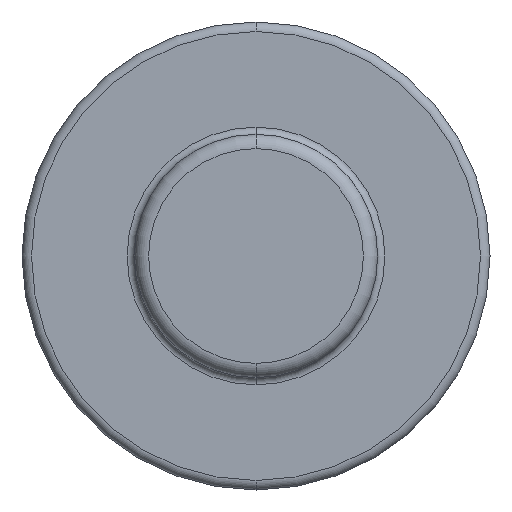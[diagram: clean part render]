
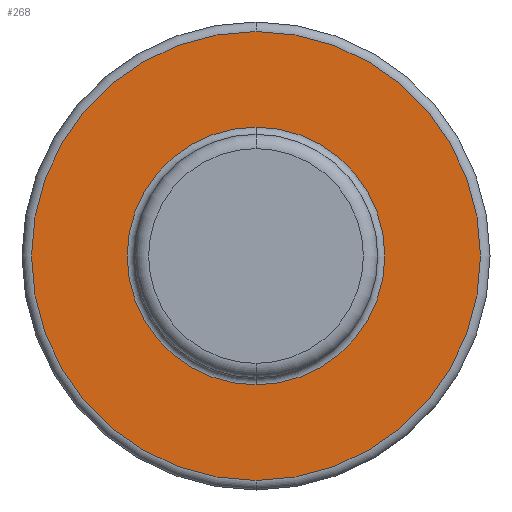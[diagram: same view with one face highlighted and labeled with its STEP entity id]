
A CAD part, front view. The second image highlights one B-rep face of the part: STEP entity #268.
In plain terms, the highlighted planar face has unit normal (0, -1, 0).
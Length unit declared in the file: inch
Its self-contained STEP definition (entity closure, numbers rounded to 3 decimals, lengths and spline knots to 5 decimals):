
#2 = CIRCLE ( 'NONE', #534, 0.27091 ) ;
#13 = EDGE_CURVE ( 'NONE', #476, #530, #67, .T. ) ;
#36 = CARTESIAN_POINT ( 'NONE',  ( 0., 0., -0.47213 ) ) ;
#43 = CIRCLE ( 'NONE', #486, 0.27091 ) ;
#67 = CIRCLE ( 'NONE', #116, 0.47213 ) ;
#71 = ORIENTED_EDGE ( 'NONE', *, *, #435, .T. ) ;
#86 = CARTESIAN_POINT ( 'NONE',  ( 0., 0., 0. ) ) ;
#116 = AXIS2_PLACEMENT_3D ( 'NONE', #837, #762, #587 ) ;
#137 = DIRECTION ( 'NONE',  ( 0., 0., 1. ) ) ;
#153 = DIRECTION ( 'NONE',  ( 0., 0., 1. ) ) ;
#169 = FACE_BOUND ( 'NONE', #684, .T. ) ;
#179 = ORIENTED_EDGE ( 'NONE', *, *, #13, .T. ) ;
#231 = CARTESIAN_POINT ( 'NONE',  ( 0., 0., 0.47213 ) ) ;
#268 = ADVANCED_FACE ( 'NONE', ( #169, #310 ), #612, .F. ) ;
#274 = EDGE_CURVE ( 'NONE', #530, #476, #804, .T. ) ;
#310 = FACE_OUTER_BOUND ( 'NONE', #841, .T. ) ;
#332 = AXIS2_PLACEMENT_3D ( 'NONE', #667, #784, #473 ) ;
#353 = DIRECTION ( 'NONE',  ( 0., 1., 0. ) ) ;
#388 = EDGE_CURVE ( 'NONE', #679, #810, #2, .T. ) ;
#406 = DIRECTION ( 'NONE',  ( 0., 1., 0. ) ) ;
#415 = DIRECTION ( 'NONE',  ( 0., 1., 0. ) ) ;
#435 = EDGE_CURVE ( 'NONE', #810, #679, #43, .T. ) ;
#473 = DIRECTION ( 'NONE',  ( 0., 0., 1. ) ) ;
#476 = VERTEX_POINT ( 'NONE', #36 ) ;
#486 = AXIS2_PLACEMENT_3D ( 'NONE', #576, #353, #819 ) ;
#530 = VERTEX_POINT ( 'NONE', #231 ) ;
#534 = AXIS2_PLACEMENT_3D ( 'NONE', #86, #415, #153 ) ;
#576 = CARTESIAN_POINT ( 'NONE',  ( 0., 0., 0. ) ) ;
#587 = DIRECTION ( 'NONE',  ( 0., 0., 1. ) ) ;
#596 = CARTESIAN_POINT ( 'NONE',  ( 0., 0., 0.27091 ) ) ;
#612 = PLANE ( 'NONE',  #843 ) ;
#625 = ORIENTED_EDGE ( 'NONE', *, *, #388, .T. ) ;
#667 = CARTESIAN_POINT ( 'NONE',  ( 0., 0., 0. ) ) ;
#679 = VERTEX_POINT ( 'NONE', #806 ) ;
#684 = EDGE_LOOP ( 'NONE', ( #71, #625 ) ) ;
#762 = DIRECTION ( 'NONE',  ( 0., -1., 0. ) ) ;
#784 = DIRECTION ( 'NONE',  ( 0., -1., 0. ) ) ;
#789 = CARTESIAN_POINT ( 'NONE',  ( -0.49213, 0., 0. ) ) ;
#804 = CIRCLE ( 'NONE', #332, 0.47213 ) ;
#806 = CARTESIAN_POINT ( 'NONE',  ( 0., 0., -0.27091 ) ) ;
#808 = ORIENTED_EDGE ( 'NONE', *, *, #274, .T. ) ;
#810 = VERTEX_POINT ( 'NONE', #596 ) ;
#819 = DIRECTION ( 'NONE',  ( 0., 0., 1. ) ) ;
#837 = CARTESIAN_POINT ( 'NONE',  ( 0., 0., 0. ) ) ;
#841 = EDGE_LOOP ( 'NONE', ( #808, #179 ) ) ;
#843 = AXIS2_PLACEMENT_3D ( 'NONE', #789, #406, #137 ) ;
